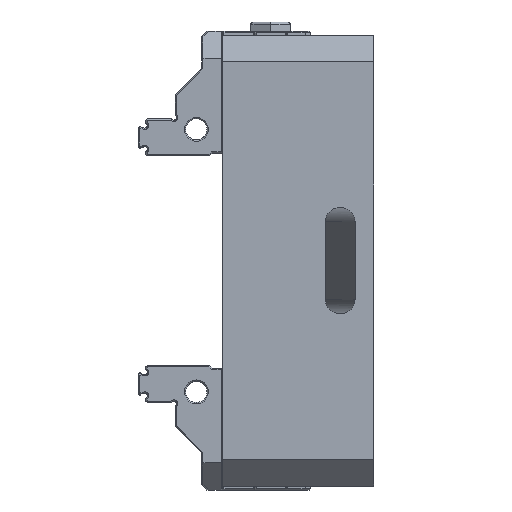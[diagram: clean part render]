
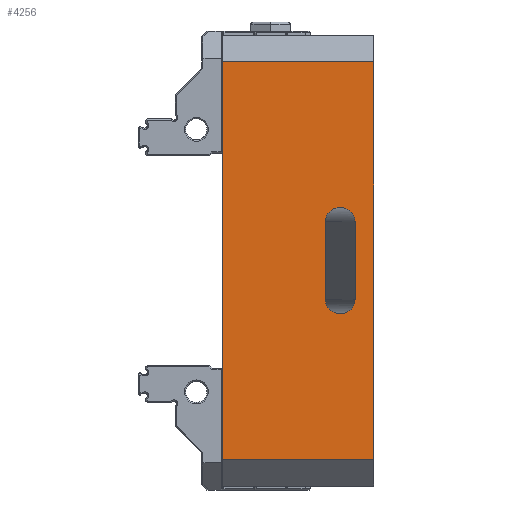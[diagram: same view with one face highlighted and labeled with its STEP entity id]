
A CAD part, left-side view. The second image highlights one B-rep face of the part: STEP entity #4256.
In plain terms, the highlighted planar face has unit normal (-1, 0, 0).
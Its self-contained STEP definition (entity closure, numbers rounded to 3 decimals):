
#712=ELLIPSE('',#30849,5.587,5.25);
#713=ELLIPSE('',#30850,5.587,5.25);
#4256=ADVANCED_FACE('',(#5690,#5691),#5284,.F.);
#5284=PLANE('',#30851);
#5690=FACE_BOUND('',#7218,.T.);
#5691=FACE_BOUND('',#7219,.T.);
#7218=EDGE_LOOP('',(#15456,#15457,#15458,#15459));
#7219=EDGE_LOOP('',(#15460,#15461,#15462,#15463));
#15456=ORIENTED_EDGE('',*,*,#22998,.T.);
#15457=ORIENTED_EDGE('',*,*,#22999,.T.);
#15458=ORIENTED_EDGE('',*,*,#23000,.T.);
#15459=ORIENTED_EDGE('',*,*,#23001,.T.);
#15460=ORIENTED_EDGE('',*,*,#23002,.T.);
#15461=ORIENTED_EDGE('',*,*,#22791,.F.);
#15462=ORIENTED_EDGE('',*,*,#23003,.T.);
#15463=ORIENTED_EDGE('',*,*,#23004,.T.);
#18852=VERTEX_POINT('',#52871);
#18853=VERTEX_POINT('',#52873);
#19045=VERTEX_POINT('',#53508);
#19046=VERTEX_POINT('',#53509);
#19047=VERTEX_POINT('',#53511);
#19048=VERTEX_POINT('',#53513);
#19049=VERTEX_POINT('',#53516);
#19050=VERTEX_POINT('',#53518);
#22791=EDGE_CURVE('',#18852,#18853,#25612,.T.);
#22998=EDGE_CURVE('',#19045,#19046,#25775,.T.);
#22999=EDGE_CURVE('',#19046,#19047,#712,.T.);
#23000=EDGE_CURVE('',#19047,#19048,#25776,.T.);
#23001=EDGE_CURVE('',#19048,#19045,#713,.T.);
#23002=EDGE_CURVE('',#19049,#18853,#25777,.T.);
#23003=EDGE_CURVE('',#18852,#19050,#25778,.T.);
#23004=EDGE_CURVE('',#19050,#19049,#25779,.T.);
#25612=LINE('',#52872,#28297);
#25775=LINE('',#53507,#28460);
#25776=LINE('',#53512,#28461);
#25777=LINE('',#53515,#28462);
#25778=LINE('',#53517,#28463);
#25779=LINE('',#53519,#28464);
#28297=VECTOR('',#37278,1.);
#28460=VECTOR('',#37507,1.);
#28461=VECTOR('',#37510,1.);
#28462=VECTOR('',#37513,1.);
#28463=VECTOR('',#37514,1.);
#28464=VECTOR('',#37515,1.);
#30849=AXIS2_PLACEMENT_3D('',#53510,#37508,#37509);
#30850=AXIS2_PLACEMENT_3D('',#53514,#37511,#37512);
#30851=AXIS2_PLACEMENT_3D('',#53520,#37516,#37517);
#37278=DIRECTION('',(0.,0.,-1.));
#37507=DIRECTION('',(0.,0.,-1.));
#37508=DIRECTION('',(1.,0.,0.));
#37509=DIRECTION('',(0.,-1.,0.));
#37510=DIRECTION('',(0.,0.,1.));
#37511=DIRECTION('',(1.,0.,0.));
#37512=DIRECTION('',(0.,1.,0.));
#37513=DIRECTION('',(0.,-1.,0.));
#37514=DIRECTION('',(0.,1.,0.));
#37515=DIRECTION('',(0.,0.,-1.));
#37516=DIRECTION('',(1.,0.,0.));
#37517=DIRECTION('',(0.,0.,-1.));
#52871=CARTESIAN_POINT('',(1081.552,691.136,480.));
#52872=CARTESIAN_POINT('',(1081.552,691.136,300.));
#52873=CARTESIAN_POINT('',(1081.552,691.136,330.));
#53507=CARTESIAN_POINT('',(1081.552,698.291,300.));
#53508=CARTESIAN_POINT('',(1081.552,698.291,419.75));
#53509=CARTESIAN_POINT('',(1081.552,698.291,390.25));
#53510=CARTESIAN_POINT('',(1081.552,703.878,390.25));
#53511=CARTESIAN_POINT('',(1081.552,709.465,390.25));
#53512=CARTESIAN_POINT('',(1081.552,709.465,300.));
#53513=CARTESIAN_POINT('',(1081.552,709.465,419.75));
#53514=CARTESIAN_POINT('',(1081.552,703.878,419.75));
#53515=CARTESIAN_POINT('',(1081.552,748.136,330.));
#53516=CARTESIAN_POINT('',(1081.552,748.136,330.));
#53517=CARTESIAN_POINT('',(1081.552,748.136,480.));
#53518=CARTESIAN_POINT('',(1081.552,748.136,480.));
#53519=CARTESIAN_POINT('',(1081.552,748.136,300.));
#53520=CARTESIAN_POINT('',(1081.552,748.136,300.));
